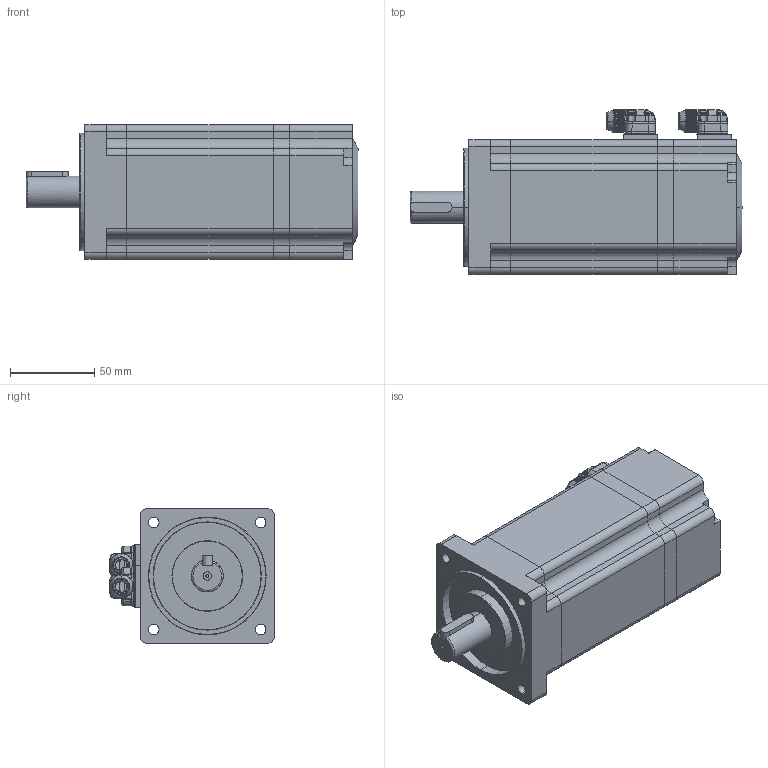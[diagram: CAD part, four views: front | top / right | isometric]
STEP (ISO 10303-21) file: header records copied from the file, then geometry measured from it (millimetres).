
FILE_DESCRIPTION (( 'STEP AP203' ), '1' );
FILE_NAME ('80JASM510230K-M23B-T.STEP', '2019-09-27T07:12:31', ( 'USER-' ), ( 'MS' ), 'SwSTEP 2.0', 'SolidWorks 2015', '' );
FILE_SCHEMA (( 'CONFIG_CONTROL_DESIGN' ));
Length unit declared in the file: millimetre
Products named in the file (5): 80JASM5010230K BODY; 80JASM507230K-B綴裔; 80JASM 晤鎢ん揤盄諶; 80key25x6x6; 80JASM510230K-M23B-T
Assembly tree (5 placements, depth 2):
  80JASM510230K-M23B-T
    80JASM5010230K BODY
    80JASM507230K-B綴裔
    80JASM 晤鎢ん揤盄諶  x2
    80key25x6x6
Bounding box: 197.5 x 98.19 x 80 mm (x, y, z)
Volume: 925036.1 mm3; surface area: 113740.8 mm2
Topology: 11 solids, 11 shells, 3211 faces, 8560 edges, 5307 vertices
Faces by surface type: plane 1211, cylinder 957, bspline 604, cone 432, torus 7
Entity records: 76334 total; most frequent: CARTESIAN_POINT 39401, ORIENTED_EDGE 9010, DIRECTION 5432, EDGE_CURVE 4505, VERTEX_POINT 2851, B_SPLINE_CURVE_WITH_KNOTS 2225, AXIS2_PLACEMENT_3D 1938, EDGE_LOOP 1802
